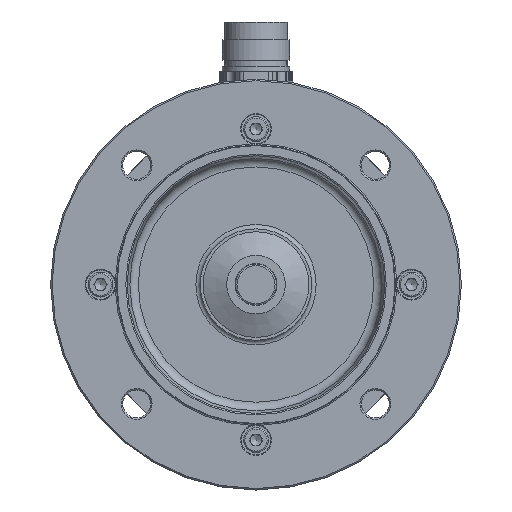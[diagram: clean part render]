
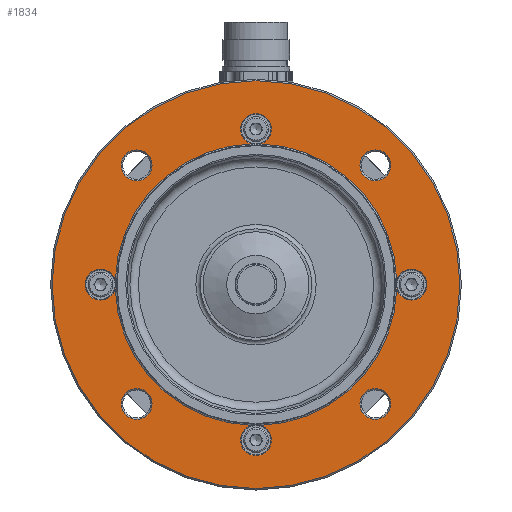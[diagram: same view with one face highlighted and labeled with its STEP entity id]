
A CAD part, front view. The second image highlights one B-rep face of the part: STEP entity #1834.
In plain terms, the highlighted planar face has unit normal (0, -1, 0).
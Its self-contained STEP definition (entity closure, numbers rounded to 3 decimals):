
#1215=FACE_BOUND('',#2829,.T.);
#1216=FACE_BOUND('',#2830,.T.);
#1217=FACE_BOUND('',#2831,.T.);
#1218=FACE_BOUND('',#2832,.T.);
#1219=FACE_BOUND('',#2833,.T.);
#1834=ADVANCED_FACE('',(#2480,#1215,#1216,#1217,#1218,#1219),#2328,.T.);
#2328=PLANE('',#7445);
#2480=FACE_OUTER_BOUND('',#2828,.T.);
#2828=EDGE_LOOP('',(#3833));
#2829=EDGE_LOOP('',(#3834,#3835,#3836,#3837,#3838,#3839,#3840,#3841));
#2830=EDGE_LOOP('',(#3842));
#2831=EDGE_LOOP('',(#3843));
#2832=EDGE_LOOP('',(#3844));
#2833=EDGE_LOOP('',(#3845));
#3833=ORIENTED_EDGE('',*,*,#6036,.T.);
#3834=ORIENTED_EDGE('',*,*,#6037,.T.);
#3835=ORIENTED_EDGE('',*,*,#6038,.T.);
#3836=ORIENTED_EDGE('',*,*,#6039,.T.);
#3837=ORIENTED_EDGE('',*,*,#6040,.T.);
#3838=ORIENTED_EDGE('',*,*,#6041,.T.);
#3839=ORIENTED_EDGE('',*,*,#6042,.T.);
#3840=ORIENTED_EDGE('',*,*,#6043,.T.);
#3841=ORIENTED_EDGE('',*,*,#6044,.T.);
#3842=ORIENTED_EDGE('',*,*,#6045,.T.);
#3843=ORIENTED_EDGE('',*,*,#6046,.T.);
#3844=ORIENTED_EDGE('',*,*,#6047,.T.);
#3845=ORIENTED_EDGE('',*,*,#6048,.T.);
#5364=VERTEX_POINT('',#11070);
#5365=VERTEX_POINT('',#11072);
#5366=VERTEX_POINT('',#11073);
#5367=VERTEX_POINT('',#11075);
#5368=VERTEX_POINT('',#11077);
#5369=VERTEX_POINT('',#11079);
#5370=VERTEX_POINT('',#11081);
#5371=VERTEX_POINT('',#11083);
#5372=VERTEX_POINT('',#11085);
#5373=VERTEX_POINT('',#11088);
#5374=VERTEX_POINT('',#11090);
#5375=VERTEX_POINT('',#11092);
#5376=VERTEX_POINT('',#11094);
#6036=EDGE_CURVE('',#5364,#5364,#6806,.T.);
#6037=EDGE_CURVE('',#5365,#5366,#6807,.T.);
#6038=EDGE_CURVE('',#5366,#5367,#6808,.T.);
#6039=EDGE_CURVE('',#5367,#5368,#6809,.T.);
#6040=EDGE_CURVE('',#5368,#5369,#6810,.T.);
#6041=EDGE_CURVE('',#5369,#5370,#6811,.T.);
#6042=EDGE_CURVE('',#5370,#5371,#6812,.T.);
#6043=EDGE_CURVE('',#5371,#5372,#6813,.T.);
#6044=EDGE_CURVE('',#5372,#5365,#6814,.T.);
#6045=EDGE_CURVE('',#5373,#5373,#6815,.T.);
#6046=EDGE_CURVE('',#5374,#5374,#6816,.T.);
#6047=EDGE_CURVE('',#5375,#5375,#6817,.T.);
#6048=EDGE_CURVE('',#5376,#5376,#6818,.T.);
#6806=CIRCLE('',#7432,69.5);
#6807=CIRCLE('',#7433,5.25);
#6808=CIRCLE('',#7434,48.);
#6809=CIRCLE('',#7435,5.25);
#6810=CIRCLE('',#7436,48.);
#6811=CIRCLE('',#7437,5.25);
#6812=CIRCLE('',#7438,48.);
#6813=CIRCLE('',#7439,5.25);
#6814=CIRCLE('',#7440,48.);
#6815=CIRCLE('',#7441,5.25);
#6816=CIRCLE('',#7442,5.25);
#6817=CIRCLE('',#7443,5.25);
#6818=CIRCLE('',#7444,5.25);
#7432=AXIS2_PLACEMENT_3D('',#11069,#8649,#8650);
#7433=AXIS2_PLACEMENT_3D('',#11071,#8651,#8652);
#7434=AXIS2_PLACEMENT_3D('',#11074,#8653,#8654);
#7435=AXIS2_PLACEMENT_3D('',#11076,#8655,#8656);
#7436=AXIS2_PLACEMENT_3D('',#11078,#8657,#8658);
#7437=AXIS2_PLACEMENT_3D('',#11080,#8659,#8660);
#7438=AXIS2_PLACEMENT_3D('',#11082,#8661,#8662);
#7439=AXIS2_PLACEMENT_3D('',#11084,#8663,#8664);
#7440=AXIS2_PLACEMENT_3D('',#11086,#8665,#8666);
#7441=AXIS2_PLACEMENT_3D('',#11087,#8667,#8668);
#7442=AXIS2_PLACEMENT_3D('',#11089,#8669,#8670);
#7443=AXIS2_PLACEMENT_3D('',#11091,#8671,#8672);
#7444=AXIS2_PLACEMENT_3D('',#11093,#8673,#8674);
#7445=AXIS2_PLACEMENT_3D('',#11095,#8675,#8676);
#8649=DIRECTION('',(0.,-1.,0.));
#8650=DIRECTION('',(0.,0.,-1.));
#8651=DIRECTION('',(0.,1.,0.));
#8652=DIRECTION('',(0.,0.,-1.));
#8653=DIRECTION('',(0.,1.,0.));
#8654=DIRECTION('',(0.,0.,-1.));
#8655=DIRECTION('',(0.,1.,0.));
#8656=DIRECTION('',(0.,0.,-1.));
#8657=DIRECTION('',(0.,1.,0.));
#8658=DIRECTION('',(0.,0.,-1.));
#8659=DIRECTION('',(0.,1.,0.));
#8660=DIRECTION('',(0.,0.,-1.));
#8661=DIRECTION('',(0.,1.,0.));
#8662=DIRECTION('',(0.,0.,-1.));
#8663=DIRECTION('',(0.,1.,0.));
#8664=DIRECTION('',(0.,0.,-1.));
#8665=DIRECTION('',(0.,1.,0.));
#8666=DIRECTION('',(0.,0.,-1.));
#8667=DIRECTION('',(0.,1.,0.));
#8668=DIRECTION('',(0.,0.,-1.));
#8669=DIRECTION('',(0.,1.,0.));
#8670=DIRECTION('',(0.,0.,-1.));
#8671=DIRECTION('',(0.,1.,0.));
#8672=DIRECTION('',(0.,0.,-1.));
#8673=DIRECTION('',(0.,1.,0.));
#8674=DIRECTION('',(0.,0.,-1.));
#8675=DIRECTION('',(0.,-1.,0.));
#8676=DIRECTION('',(0.,0.,-1.));
#11069=CARTESIAN_POINT('',(0.,0.,0.));
#11070=CARTESIAN_POINT('',(0.,0.,-69.5));
#11071=CARTESIAN_POINT('',(0.,0.,-53.));
#11072=CARTESIAN_POINT('',(1.523,0.,-47.976));
#11073=CARTESIAN_POINT('',(-1.523,0.,-47.976));
#11074=CARTESIAN_POINT('',(0.,0.,0.));
#11075=CARTESIAN_POINT('',(-47.976,0.,-1.523));
#11076=CARTESIAN_POINT('',(-53.,0.,0.));
#11077=CARTESIAN_POINT('',(-47.976,0.,1.523));
#11078=CARTESIAN_POINT('',(0.,0.,0.));
#11079=CARTESIAN_POINT('',(-1.523,0.,47.976));
#11080=CARTESIAN_POINT('',(0.,0.,53.));
#11081=CARTESIAN_POINT('',(1.523,0.,47.976));
#11082=CARTESIAN_POINT('',(0.,0.,0.));
#11083=CARTESIAN_POINT('',(47.976,0.,1.523));
#11084=CARTESIAN_POINT('',(53.,0.,0.));
#11085=CARTESIAN_POINT('',(47.976,0.,-1.523));
#11086=CARTESIAN_POINT('',(0.,0.,0.));
#11087=CARTESIAN_POINT('',(-40.659,0.,-40.659));
#11088=CARTESIAN_POINT('',(-40.659,0.,-45.909));
#11089=CARTESIAN_POINT('',(-40.659,0.,40.659));
#11090=CARTESIAN_POINT('',(-40.659,0.,35.409));
#11091=CARTESIAN_POINT('',(40.659,0.,-40.659));
#11092=CARTESIAN_POINT('',(40.659,0.,-45.909));
#11093=CARTESIAN_POINT('',(40.659,0.,40.659));
#11094=CARTESIAN_POINT('',(40.659,0.,35.409));
#11095=CARTESIAN_POINT('',(0.,0.,0.));
